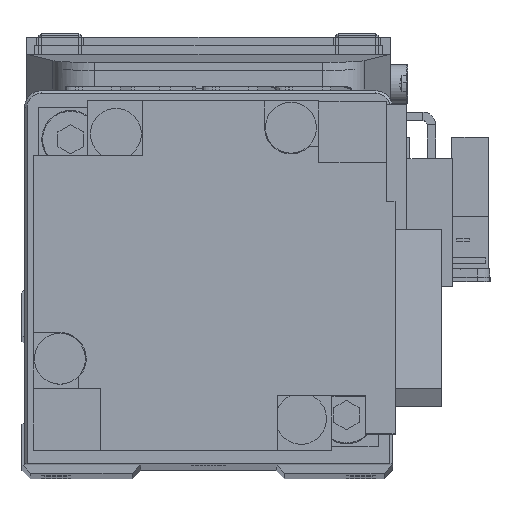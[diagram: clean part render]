
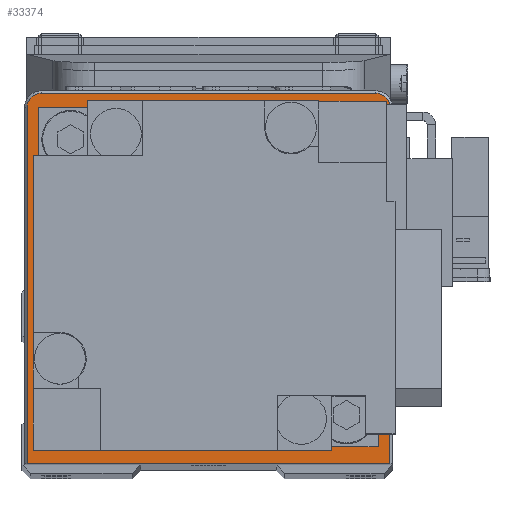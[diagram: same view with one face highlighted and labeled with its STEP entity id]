
A CAD part, top view. The second image highlights one B-rep face of the part: STEP entity #33374.
In plain terms, the highlighted planar face has unit normal (0, 0, 1).
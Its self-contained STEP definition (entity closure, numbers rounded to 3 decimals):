
#189 = CARTESIAN_POINT ( 'NONE',  ( -21.4, 20., 26.5 ) ) ;
#196 = DIRECTION ( 'NONE',  ( 0., 0., 1. ) ) ;
#442 = LINE ( 'NONE', #12075, #881 ) ;
#748 = CARTESIAN_POINT ( 'NONE',  ( 0., 0., 26.5 ) ) ;
#881 = VECTOR ( 'NONE', #23694, 1000. ) ;
#1052 = VECTOR ( 'NONE', #6129, 1000. ) ;
#1819 = ORIENTED_EDGE ( 'NONE', *, *, #18211, .T. ) ;
#2999 = DIRECTION ( 'NONE',  ( 0., 0., 1. ) ) ;
#3371 = ORIENTED_EDGE ( 'NONE', *, *, #4272, .F. ) ;
#3462 = DIRECTION ( 'NONE',  ( 0., 0., 1. ) ) ;
#3972 = VERTEX_POINT ( 'NONE', #36053 ) ;
#4272 = EDGE_CURVE ( 'NONE', #6489, #26292, #28428, .T. ) ;
#4950 = CARTESIAN_POINT ( 'NONE',  ( -21.4, -22., 26.5 ) ) ;
#5544 = AXIS2_PLACEMENT_3D ( 'NONE', #7476, #19057, #30683 ) ;
#5558 = LINE ( 'NONE', #17154, #16949 ) ;
#5832 = FACE_BOUND ( 'NONE', #18722, .T. ) ;
#5978 = CIRCLE ( 'NONE', #10826, 1.7 ) ;
#6129 = DIRECTION ( 'NONE',  ( -1., 0., 0. ) ) ;
#6489 = VERTEX_POINT ( 'NONE', #13750 ) ;
#7476 = CARTESIAN_POINT ( 'NONE',  ( 0., 0., 26.5 ) ) ;
#8286 = VERTEX_POINT ( 'NONE', #189 ) ;
#9327 = DIRECTION ( 'NONE',  ( 1., 0., 0. ) ) ;
#9681 = CARTESIAN_POINT ( 'NONE',  ( 19.7, 21.7, 26.5 ) ) ;
#10826 = AXIS2_PLACEMENT_3D ( 'NONE', #26282, #196, #11801 ) ;
#11801 = DIRECTION ( 'NONE',  ( 1., 0., 0. ) ) ;
#11956 = ORIENTED_EDGE ( 'NONE', *, *, #15205, .T. ) ;
#12002 = AXIS2_PLACEMENT_3D ( 'NONE', #748, #12360, #23970 ) ;
#12075 = CARTESIAN_POINT ( 'NONE',  ( 21.4, 20., 26.5 ) ) ;
#12360 = DIRECTION ( 'NONE',  ( 0., 0., 1. ) ) ;
#13503 = CARTESIAN_POINT ( 'NONE',  ( 21.4, -22., 26.5 ) ) ;
#13750 = CARTESIAN_POINT ( 'NONE',  ( -10., 0., 26.5 ) ) ;
#13871 = VECTOR ( 'NONE', #9327, 1000. ) ;
#14597 = DIRECTION ( 'NONE',  ( 1., 0., 0. ) ) ;
#15073 = DIRECTION ( 'NONE',  ( 1., 0., 0. ) ) ;
#15166 = ORIENTED_EDGE ( 'NONE', *, *, #30161, .F. ) ;
#15205 = EDGE_CURVE ( 'NONE', #21645, #33038, #34562, .T. ) ;
#15507 = EDGE_CURVE ( 'NONE', #8286, #36207, #5558, .T. ) ;
#16949 = VECTOR ( 'NONE', #28768, 1000. ) ;
#17154 = CARTESIAN_POINT ( 'NONE',  ( -21.4, -22., 26.5 ) ) ;
#17435 = PLANE ( 'NONE',  #27160 ) ;
#18120 = AXIS2_PLACEMENT_3D ( 'NONE', #29531, #3462, #15073 ) ;
#18211 = EDGE_CURVE ( 'NONE', #33038, #3972, #20581, .T. ) ;
#18722 = EDGE_LOOP ( 'NONE', ( #3371, #15166 ) ) ;
#19057 = DIRECTION ( 'NONE',  ( 0., 0., 1. ) ) ;
#20581 = LINE ( 'NONE', #32198, #1052 ) ;
#20616 = ORIENTED_EDGE ( 'NONE', *, *, #15507, .T. ) ;
#20989 = EDGE_CURVE ( 'NONE', #37549, #21645, #442, .T. ) ;
#21645 = VERTEX_POINT ( 'NONE', #28498 ) ;
#21929 = CIRCLE ( 'NONE', #5544, 10. ) ;
#23160 = ORIENTED_EDGE ( 'NONE', *, *, #27299, .T. ) ;
#23694 = DIRECTION ( 'NONE',  ( 0., 1., 0. ) ) ;
#23799 = LINE ( 'NONE', #35404, #13871 ) ;
#23970 = DIRECTION ( 'NONE',  ( 1., 0., 0. ) ) ;
#24027 = EDGE_LOOP ( 'NONE', ( #29556, #34957, #11956, #1819, #23160, #20616 ) ) ;
#26282 = CARTESIAN_POINT ( 'NONE',  ( -19.7, 20., 26.5 ) ) ;
#26292 = VERTEX_POINT ( 'NONE', #33849 ) ;
#27160 = AXIS2_PLACEMENT_3D ( 'NONE', #29063, #2999, #14597 ) ;
#27299 = EDGE_CURVE ( 'NONE', #3972, #8286, #5978, .T. ) ;
#27350 = EDGE_CURVE ( 'NONE', #36207, #37549, #23799, .T. ) ;
#28428 = CIRCLE ( 'NONE', #12002, 10. ) ;
#28498 = CARTESIAN_POINT ( 'NONE',  ( 21.4, 20., 26.5 ) ) ;
#28768 = DIRECTION ( 'NONE',  ( 0., -1., 0. ) ) ;
#29063 = CARTESIAN_POINT ( 'NONE',  ( 0., 0., 26.5 ) ) ;
#29531 = CARTESIAN_POINT ( 'NONE',  ( 19.7, 20., 26.5 ) ) ;
#29556 = ORIENTED_EDGE ( 'NONE', *, *, #27350, .T. ) ;
#30161 = EDGE_CURVE ( 'NONE', #26292, #6489, #21929, .T. ) ;
#30683 = DIRECTION ( 'NONE',  ( 1., 0., 0. ) ) ;
#31903 = FACE_OUTER_BOUND ( 'NONE', #24027, .T. ) ;
#32198 = CARTESIAN_POINT ( 'NONE',  ( -19.7, 21.7, 26.5 ) ) ;
#33038 = VERTEX_POINT ( 'NONE', #9681 ) ;
#33374 = ADVANCED_FACE ( 'NONE', ( #31903, #5832 ), #17435, .T. ) ;
#33849 = CARTESIAN_POINT ( 'NONE',  ( 10., 0., 26.5 ) ) ;
#34562 = CIRCLE ( 'NONE', #18120, 1.7 ) ;
#34957 = ORIENTED_EDGE ( 'NONE', *, *, #20989, .T. ) ;
#35404 = CARTESIAN_POINT ( 'NONE',  ( -21.7, -22., 26.5 ) ) ;
#36053 = CARTESIAN_POINT ( 'NONE',  ( -19.7, 21.7, 26.5 ) ) ;
#36207 = VERTEX_POINT ( 'NONE', #4950 ) ;
#37549 = VERTEX_POINT ( 'NONE', #13503 ) ;
